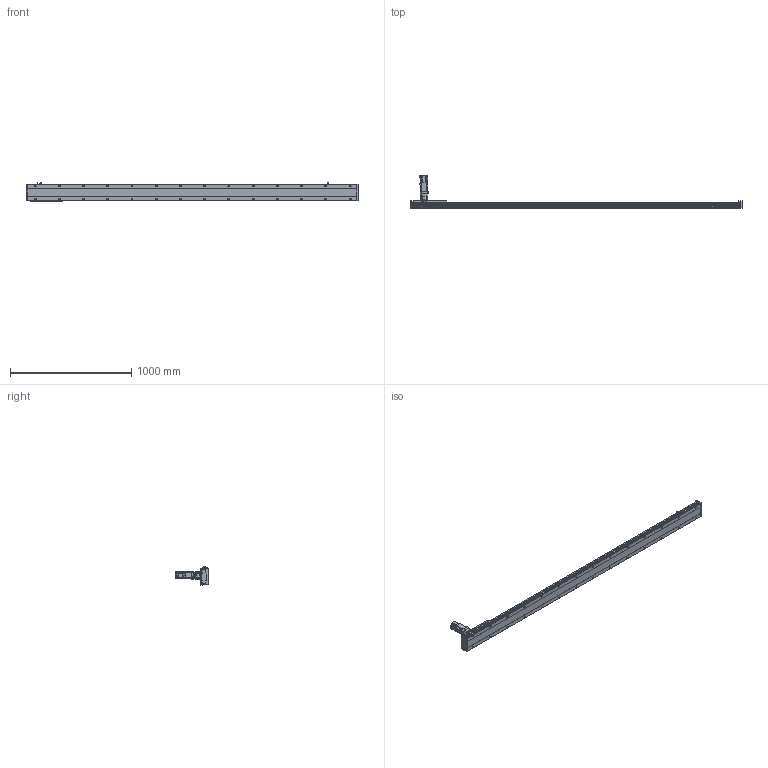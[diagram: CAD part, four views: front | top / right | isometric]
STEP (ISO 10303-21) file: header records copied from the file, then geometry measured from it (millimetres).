
FILE_DESCRIPTION(/* description */ ('STEP AP203'),/* implementation_level */ '2;1');
FILE_NAME(/* name */ 'SHS14A-L10-S2400-BC-T40-C1-N(0)',/* time_stamp */ '2023-03-27T08:50:28+02:00',/* author */ ('License CC BY-ND 4.0'),/* organization */ ('CADENAS'),/* preprocessor_version */ 'ST-DEVELOPER v19.3',/* originating_system */ 'PARTsolutions',/* authorisation */ ' ');
FILE_SCHEMA (('CONFIG_CONTROL_DESIGN'));
Length unit declared in the file: millimetre
Products named in the file (7): SHS14A-L10-S2400-BC-T40-C1-N(0); PSC140-sensor; T40-p1; SHS14AT_body3; SHS14A-2400_slider; SHS14A_body2; SHS14A-S2400-BC-T40-C1(0)_body
Assembly tree (13 placements, depth 2):
  SHS14A-L10-S2400-BC-T40-C1-N(0)
    PSC140-sensor  x3
    T40-p1
    SHS14AT_body3
    SHS14A-2400_slider
    SHS14A_body2  x6
    SHS14A-S2400-BC-T40-C1(0)_body
Bounding box: 2740 x 272.7 x 150.9 mm (x, y, z)
Volume: 11429647.6 mm3; surface area: 1783546 mm2
Topology: 13 solids, 13 shells, 2124 faces, 5423 edges, 3546 vertices
Faces by surface type: plane 1479, cylinder 555, cone 80, torus 10
Full cylindrical faces by diameter (mm): 2.8 x3, 4.134 x24, 4.2 x7, 4.4 x24, 4.5 x24, 4.6 x3, 4.8 x24, 4.917 x36, 5 x8, 5.5 x11, 5.94 x6, 6 x2, 6.6 x28, 8 x24, 8.49 x4, 8.5 x4, 9 x4, 10.5 x28, 13.964 x1, 14 x1, 14.182 x1, 16 x1, 18.974 x1, 19.274 x1, 19.774 x1, 19.8 x1, 34.442 x1, 42 x1, 50 x5
Entity records: 34238 total; most frequent: CARTESIAN_POINT 6102, DIRECTION 5787, ORIENTED_EDGE 5322, EDGE_CURVE 2661, AXIS2_PLACEMENT_3D 2017, VERTEX_POINT 1900, LINE 1753, VECTOR 1753
